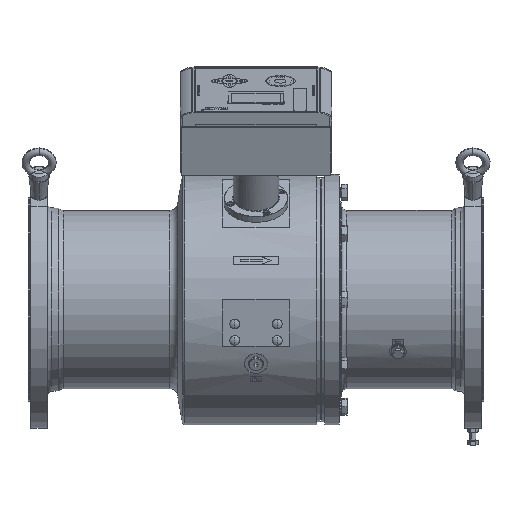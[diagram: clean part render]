
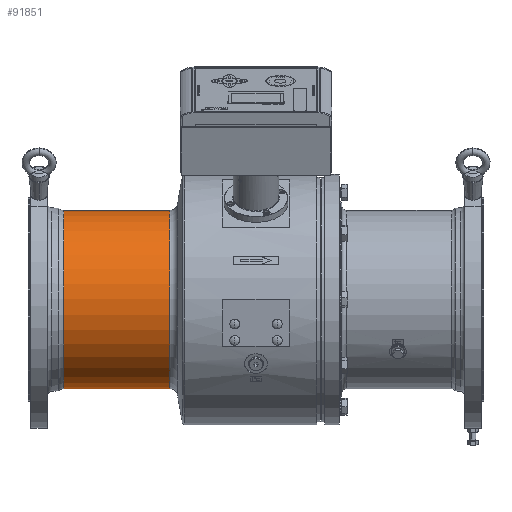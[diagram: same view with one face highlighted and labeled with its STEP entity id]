
A CAD part, top view. The second image highlights one B-rep face of the part: STEP entity #91851.
In plain terms, the highlighted cylindrical face has radius 117.5 mm (diameter 235 mm), a partial arc.
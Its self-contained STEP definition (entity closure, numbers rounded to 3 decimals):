
#21413=CARTESIAN_POINT('',(-253.529,0.,0.));
#21414=DIRECTION('',(1.,0.,0.));
#21415=DIRECTION('',(0.,1.,0.));
#21416=AXIS2_PLACEMENT_3D('',#21413,#21414,#21415);
#21421=DIRECTION('',(-1.,0.,0.));
#21422=VECTOR('',#21421,140.138);
#21423=CARTESIAN_POINT('',(-113.391,117.5,0.));
#21424=LINE('4280',#21423,#21422);
#21428=CARTESIAN_POINT('',(-113.391,0.,0.));
#21429=DIRECTION('',(1.,0.,0.));
#21430=DIRECTION('',(0.,1.,0.));
#21431=AXIS2_PLACEMENT_3D('',#21428,#21429,#21430);
#21436=DIRECTION('',(-1.,0.,0.));
#21437=VECTOR('',#21436,140.138);
#21438=CARTESIAN_POINT('',(-113.391,-117.5,0.));
#21439=LINE('4281',#21438,#21437);
#67539=CARTESIAN_POINT('',(-253.529,-117.5,0.));
#67540=CARTESIAN_POINT('',(-253.529,117.5,0.));
#67541=VERTEX_POINT('',#67539);
#67542=VERTEX_POINT('',#67540);
#67543=CARTESIAN_POINT('',(-113.391,117.5,0.));
#67544=VERTEX_POINT('',#67543);
#67545=CARTESIAN_POINT('',(-113.391,-117.5,0.));
#67546=VERTEX_POINT('',#67545);
#91839=CARTESIAN_POINT('',(111.85,0.,0.));
#91840=DIRECTION('',(-1.,0.,0.));
#91841=DIRECTION('',(0.,1.,0.));
#91842=AXIS2_PLACEMENT_3D('',#91839,#91840,#91841);
#91843=CYLINDRICAL_SURFACE('424',#91842,117.5);
#91844=ORIENTED_EDGE('4279',*,*,#91819,.F.);
#91845=ORIENTED_EDGE('4280',*,*,#91769,.F.);
#91847=ORIENTED_EDGE('4284',*,*,#91846,.T.);
#91848=ORIENTED_EDGE('4281',*,*,#91766,.T.);
#91849=EDGE_LOOP('424',(#91844,#91845,#91847,#91848));
#91850=FACE_OUTER_BOUND('424',#91849,.F.);
#21417=CIRCLE('4279',#21416,117.5);
#21432=CIRCLE('4284',#21431,117.5);
#91766=EDGE_CURVE('4281',#67546,#67541,#21439,.T.);
#91769=EDGE_CURVE('4280',#67544,#67542,#21424,.T.);
#91819=EDGE_CURVE('4279',#67542,#67541,#21417,.T.);
#91846=EDGE_CURVE('4284',#67544,#67546,#21432,.T.);
#91851=ADVANCED_FACE('424',(#91850),#91843,.T.);
